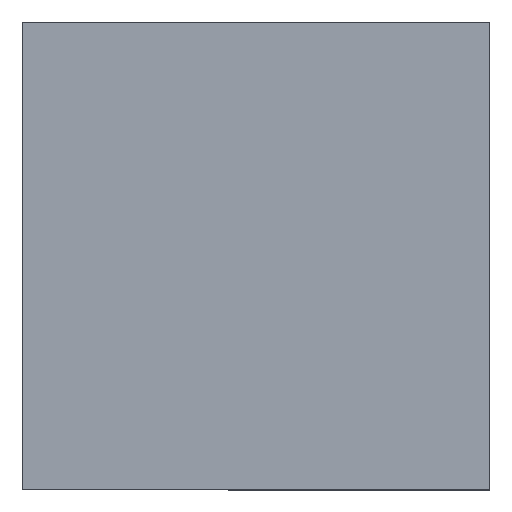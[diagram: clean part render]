
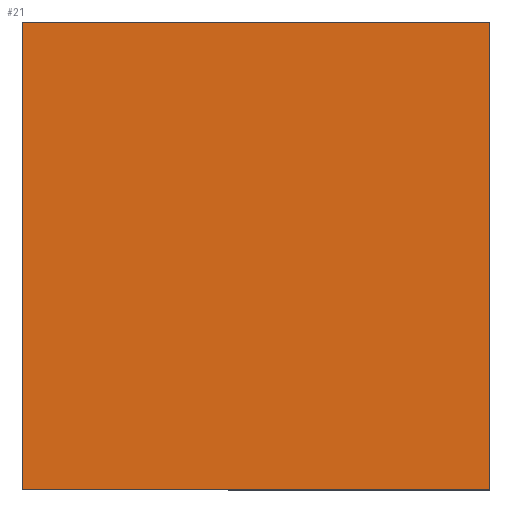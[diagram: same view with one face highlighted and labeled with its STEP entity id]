
A CAD part, top view. The second image highlights one B-rep face of the part: STEP entity #21.
In plain terms, the highlighted planar face has unit normal (0, 0, 1).
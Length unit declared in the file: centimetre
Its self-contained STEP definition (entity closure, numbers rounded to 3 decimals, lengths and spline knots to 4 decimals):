
#6 = VERTEX_POINT ( 'NONE', #371 ) ;
#10 = DIRECTION ( 'NONE',  ( 1., 0., 0. ) ) ;
#13 = DIRECTION ( 'NONE',  ( 1., 0., 0. ) ) ;
#21 = ADVANCED_FACE ( 'NONE', ( #93 ), #267, .T. ) ;
#24 = DIRECTION ( 'NONE',  ( 0., 1., 0. ) ) ;
#25 = EDGE_LOOP ( 'NONE', ( #256, #420, #320, #180 ) ) ;
#33 = EDGE_CURVE ( 'NONE', #6, #382, #58, .T. ) ;
#34 = CARTESIAN_POINT ( 'NONE',  ( 0., 0., 1000. ) ) ;
#45 = DIRECTION ( 'NONE',  ( -1., 0., 0. ) ) ;
#58 = LINE ( 'NONE', #438, #333 ) ;
#79 = VECTOR ( 'NONE', #81, 100. ) ;
#81 = DIRECTION ( 'NONE',  ( 0., -1., 0. ) ) ;
#87 = VECTOR ( 'NONE', #24, 100. ) ;
#92 = EDGE_CURVE ( 'NONE', #433, #348, #327, .T. ) ;
#93 = FACE_OUTER_BOUND ( 'NONE', #25, .T. ) ;
#94 = CARTESIAN_POINT ( 'NONE',  ( 1000., 1000., 1000. ) ) ;
#124 = DIRECTION ( 'NONE',  ( 0., 0., 1. ) ) ;
#126 = CARTESIAN_POINT ( 'NONE',  ( 1000., 0., 1000. ) ) ;
#146 = EDGE_CURVE ( 'NONE', #382, #433, #292, .T. ) ;
#180 = ORIENTED_EDGE ( 'NONE', *, *, #33, .T. ) ;
#196 = CARTESIAN_POINT ( 'NONE',  ( 0., 0., 1000. ) ) ;
#246 = CARTESIAN_POINT ( 'NONE',  ( 0., 1000., 1000. ) ) ;
#256 = ORIENTED_EDGE ( 'NONE', *, *, #146, .T. ) ;
#262 = EDGE_CURVE ( 'NONE', #348, #6, #369, .T. ) ;
#267 = PLANE ( 'NONE',  #390 ) ;
#270 = CARTESIAN_POINT ( 'NONE',  ( 0., 1000., 1000. ) ) ;
#290 = CARTESIAN_POINT ( 'NONE',  ( 0., 0., 1000. ) ) ;
#292 = LINE ( 'NONE', #270, #79 ) ;
#320 = ORIENTED_EDGE ( 'NONE', *, *, #262, .T. ) ;
#327 = LINE ( 'NONE', #290, #383 ) ;
#333 = VECTOR ( 'NONE', #45, 100. ) ;
#348 = VERTEX_POINT ( 'NONE', #126 ) ;
#369 = LINE ( 'NONE', #94, #87 ) ;
#371 = CARTESIAN_POINT ( 'NONE',  ( 1000., 1000., 1000. ) ) ;
#382 = VERTEX_POINT ( 'NONE', #246 ) ;
#383 = VECTOR ( 'NONE', #10, 100. ) ;
#390 = AXIS2_PLACEMENT_3D ( 'NONE', #196, #124, #13 ) ;
#420 = ORIENTED_EDGE ( 'NONE', *, *, #92, .T. ) ;
#433 = VERTEX_POINT ( 'NONE', #34 ) ;
#438 = CARTESIAN_POINT ( 'NONE',  ( 0., 1000., 1000. ) ) ;
